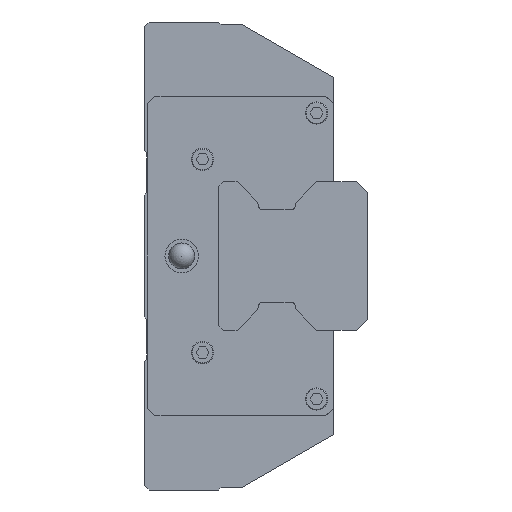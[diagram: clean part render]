
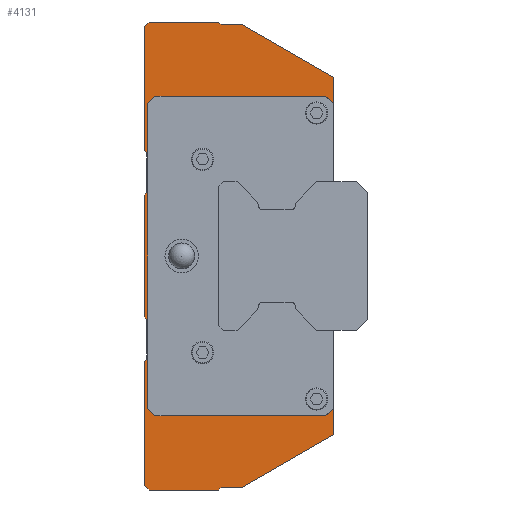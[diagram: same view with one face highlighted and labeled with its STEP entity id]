
A CAD part, left-side view. The second image highlights one B-rep face of the part: STEP entity #4131.
In plain terms, the highlighted planar face has unit normal (-1, 0, 0).
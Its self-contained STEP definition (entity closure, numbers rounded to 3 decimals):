
#726=ORIENTED_EDGE('',*,*,#1479,.T.);
#727=ORIENTED_EDGE('',*,*,#1487,.T.);
#728=ORIENTED_EDGE('',*,*,#1529,.F.);
#729=ORIENTED_EDGE('',*,*,#1652,.F.);
#730=ORIENTED_EDGE('',*,*,#1653,.F.);
#731=ORIENTED_EDGE('',*,*,#1654,.F.);
#732=ORIENTED_EDGE('',*,*,#1655,.F.);
#733=ORIENTED_EDGE('',*,*,#1656,.F.);
#734=ORIENTED_EDGE('',*,*,#1626,.F.);
#735=ORIENTED_EDGE('',*,*,#1619,.F.);
#736=ORIENTED_EDGE('',*,*,#1657,.F.);
#737=ORIENTED_EDGE('',*,*,#1658,.F.);
#738=ORIENTED_EDGE('',*,*,#1634,.F.);
#739=ORIENTED_EDGE('',*,*,#1659,.F.);
#740=ORIENTED_EDGE('',*,*,#1660,.F.);
#741=ORIENTED_EDGE('',*,*,#1617,.F.);
#742=ORIENTED_EDGE('',*,*,#1629,.F.);
#743=ORIENTED_EDGE('',*,*,#1661,.F.);
#744=ORIENTED_EDGE('',*,*,#1662,.F.);
#745=ORIENTED_EDGE('',*,*,#1663,.F.);
#746=ORIENTED_EDGE('',*,*,#1664,.F.);
#747=ORIENTED_EDGE('',*,*,#1665,.F.);
#748=ORIENTED_EDGE('',*,*,#1535,.F.);
#749=ORIENTED_EDGE('',*,*,#1491,.T.);
#750=ORIENTED_EDGE('',*,*,#1499,.T.);
#751=ORIENTED_EDGE('',*,*,#1464,.T.);
#752=ORIENTED_EDGE('',*,*,#1613,.T.);
#753=ORIENTED_EDGE('',*,*,#1468,.T.);
#1464=EDGE_CURVE('',#1978,#1977,#2366,.T.);
#1468=EDGE_CURVE('',#1982,#1981,#2370,.T.);
#1479=EDGE_CURVE('',#1981,#1990,#2380,.T.);
#1487=EDGE_CURVE('',#1990,#1995,#2388,.T.);
#1491=EDGE_CURVE('',#2000,#1999,#2392,.T.);
#1499=EDGE_CURVE('',#1999,#1978,#2399,.T.);
#1529=EDGE_CURVE('',#2028,#1995,#2427,.T.);
#1535=EDGE_CURVE('',#2000,#2032,#2433,.T.);
#1613=EDGE_CURVE('',#1977,#1982,#2501,.T.);
#1617=EDGE_CURVE('',#2083,#2081,#2505,.T.);
#1619=EDGE_CURVE('',#2084,#2086,#2507,.T.);
#1626=EDGE_CURVE('',#2086,#2091,#2512,.T.);
#1629=EDGE_CURVE('',#2094,#2083,#2513,.T.);
#1634=EDGE_CURVE('',#2098,#2099,#2516,.T.);
#1652=EDGE_CURVE('',#2112,#2028,#2534,.T.);
#1653=EDGE_CURVE('',#2113,#2112,#2535,.T.);
#1654=EDGE_CURVE('',#2114,#2113,#2536,.T.);
#1655=EDGE_CURVE('',#2115,#2114,#2537,.T.);
#1656=EDGE_CURVE('',#2091,#2115,#2538,.T.);
#1657=EDGE_CURVE('',#2116,#2084,#2539,.T.);
#1658=EDGE_CURVE('',#2099,#2116,#2540,.T.);
#1659=EDGE_CURVE('',#2117,#2098,#2541,.T.);
#1660=EDGE_CURVE('',#2081,#2117,#2542,.T.);
#1661=EDGE_CURVE('',#2118,#2094,#2543,.T.);
#1662=EDGE_CURVE('',#2119,#2118,#2544,.T.);
#1663=EDGE_CURVE('',#2120,#2119,#2545,.T.);
#1664=EDGE_CURVE('',#2121,#2120,#2546,.T.);
#1665=EDGE_CURVE('',#2032,#2121,#2547,.T.);
#1977=VERTEX_POINT('',#6176);
#1978=VERTEX_POINT('',#6178);
#1981=VERTEX_POINT('',#6185);
#1982=VERTEX_POINT('',#6187);
#1990=VERTEX_POINT('',#6207);
#1995=VERTEX_POINT('',#6222);
#1999=VERTEX_POINT('',#6231);
#2000=VERTEX_POINT('',#6233);
#2028=VERTEX_POINT('',#6307);
#2032=VERTEX_POINT('',#6319);
#2081=VERTEX_POINT('',#6472);
#2083=VERTEX_POINT('',#6476);
#2084=VERTEX_POINT('',#6480);
#2086=VERTEX_POINT('',#6483);
#2091=VERTEX_POINT('',#6494);
#2094=VERTEX_POINT('',#6503);
#2098=VERTEX_POINT('',#6513);
#2099=VERTEX_POINT('',#6514);
#2112=VERTEX_POINT('',#6547);
#2113=VERTEX_POINT('',#6549);
#2114=VERTEX_POINT('',#6551);
#2115=VERTEX_POINT('',#6553);
#2116=VERTEX_POINT('',#6556);
#2117=VERTEX_POINT('',#6559);
#2118=VERTEX_POINT('',#6562);
#2119=VERTEX_POINT('',#6564);
#2120=VERTEX_POINT('',#6566);
#2121=VERTEX_POINT('',#6568);
#2366=LINE('',#6177,#2812);
#2370=LINE('',#6186,#2816);
#2380=LINE('',#6208,#2826);
#2388=LINE('',#6223,#2834);
#2392=LINE('',#6232,#2838);
#2399=LINE('',#6246,#2845);
#2427=LINE('',#6308,#2873);
#2433=LINE('',#6318,#2879);
#2501=LINE('',#6468,#2947);
#2505=LINE('',#6477,#2951);
#2507=LINE('',#6482,#2953);
#2512=LINE('',#6496,#2958);
#2513=LINE('',#6502,#2959);
#2516=LINE('',#6512,#2962);
#2534=LINE('',#6546,#2980);
#2535=LINE('',#6548,#2981);
#2536=LINE('',#6550,#2982);
#2537=LINE('',#6552,#2983);
#2538=LINE('',#6554,#2984);
#2539=LINE('',#6555,#2985);
#2540=LINE('',#6557,#2986);
#2541=LINE('',#6558,#2987);
#2542=LINE('',#6560,#2988);
#2543=LINE('',#6561,#2989);
#2544=LINE('',#6563,#2990);
#2545=LINE('',#6565,#2991);
#2546=LINE('',#6567,#2992);
#2547=LINE('',#6569,#2993);
#2812=VECTOR('',#4994,1000.);
#2816=VECTOR('',#5000,1000.);
#2826=VECTOR('',#5016,1000.);
#2834=VECTOR('',#5028,1000.);
#2838=VECTOR('',#5034,1000.);
#2845=VECTOR('',#5047,1000.);
#2873=VECTOR('',#5093,1000.);
#2879=VECTOR('',#5101,1000.);
#2947=VECTOR('',#5237,1000.);
#2951=VECTOR('',#5243,1000.);
#2953=VECTOR('',#5247,1000.);
#2958=VECTOR('',#5258,1000.);
#2959=VECTOR('',#5265,1000.);
#2962=VECTOR('',#5274,1000.);
#2980=VECTOR('',#5296,1000.);
#2981=VECTOR('',#5297,1000.);
#2982=VECTOR('',#5298,1000.);
#2983=VECTOR('',#5299,1000.);
#2984=VECTOR('',#5300,1000.);
#2985=VECTOR('',#5301,1000.);
#2986=VECTOR('',#5302,1000.);
#2987=VECTOR('',#5303,1000.);
#2988=VECTOR('',#5304,1000.);
#2989=VECTOR('',#5305,1000.);
#2990=VECTOR('',#5306,1000.);
#2991=VECTOR('',#5307,1000.);
#2992=VECTOR('',#5308,1000.);
#2993=VECTOR('',#5309,1000.);
#3290=EDGE_LOOP('',(#726,#727,#728,#729,#730,#731,#732,#733,#734,#735,#736,
#737,#738,#739,#740,#741,#742,#743,#744,#745,#746,#747,#748,#749,#750,#751,
#752,#753));
#3640=FACE_BOUND('',#3290,.T.);
#3921=PLANE('',#4477);
#4131=ADVANCED_FACE('',(#3640),#3921,.F.);
#4477=AXIS2_PLACEMENT_3D('',#6545,#5294,#5295);
#4994=DIRECTION('',(0.,0.707,0.707));
#5000=DIRECTION('',(0.,-0.707,0.707));
#5016=DIRECTION('',(0.,-1.,0.));
#5028=DIRECTION('',(0.,-0.707,-0.707));
#5034=DIRECTION('',(0.,0.707,-0.707));
#5047=DIRECTION('',(0.,1.,0.));
#5093=DIRECTION('',(0.,0.,-1.));
#5101=DIRECTION('',(0.,0.,-1.));
#5237=DIRECTION('',(0.,0.,1.));
#5243=DIRECTION('',(0.,-0.707,0.707));
#5247=DIRECTION('',(0.,0.707,0.707));
#5258=DIRECTION('',(0.,0.,1.));
#5265=DIRECTION('',(0.,0.,1.));
#5274=DIRECTION('',(0.,0.,1.));
#5294=DIRECTION('',(1.,0.,0.));
#5295=DIRECTION('',(0.,0.,-1.));
#5296=DIRECTION('',(0.,-0.866,-0.5));
#5297=DIRECTION('',(0.,-1.,0.));
#5298=DIRECTION('',(0.,-0.707,-0.707));
#5299=DIRECTION('',(0.,-1.,0.));
#5300=DIRECTION('',(0.,-0.707,0.707));
#5301=DIRECTION('',(0.,0.,1.));
#5302=DIRECTION('',(0.,-0.707,0.707));
#5303=DIRECTION('',(0.,0.707,0.707));
#5304=DIRECTION('',(0.,0.,1.));
#5305=DIRECTION('',(0.,0.707,0.707));
#5306=DIRECTION('',(0.,1.,0.));
#5307=DIRECTION('',(0.,0.707,-0.707));
#5308=DIRECTION('',(0.,1.,0.));
#5309=DIRECTION('',(0.,0.866,-0.5));
#6176=CARTESIAN_POINT('',(-39.,25.,-20.5));
#6177=CARTESIAN_POINT('',(-39.,24.,-21.5));
#6178=CARTESIAN_POINT('',(-39.,24.,-21.5));
#6185=CARTESIAN_POINT('',(-39.,24.,21.5));
#6186=CARTESIAN_POINT('',(-39.,25.,20.5));
#6187=CARTESIAN_POINT('',(-39.,25.,20.5));
#6207=CARTESIAN_POINT('',(-39.,1.,21.5));
#6208=CARTESIAN_POINT('',(-39.,24.,21.5));
#6222=CARTESIAN_POINT('',(-39.,0.,20.5));
#6223=CARTESIAN_POINT('',(-39.,1.,21.5));
#6231=CARTESIAN_POINT('',(-39.,1.,-21.5));
#6232=CARTESIAN_POINT('',(-39.,0.,-20.5));
#6233=CARTESIAN_POINT('',(-39.,0.,-20.5));
#6246=CARTESIAN_POINT('',(-39.,1.,-21.5));
#6307=CARTESIAN_POINT('',(-39.,0.,24.041));
#6308=CARTESIAN_POINT('',(-39.,0.,20.425));
#6318=CARTESIAN_POINT('',(-39.,0.,20.425));
#6319=CARTESIAN_POINT('',(-39.,0.,-24.041));
#6468=CARTESIAN_POINT('',(-39.,25.,-20.5));
#6472=CARTESIAN_POINT('',(-39.,25.1,-13.88));
#6476=CARTESIAN_POINT('',(-39.,25.4,-14.18));
#6477=CARTESIAN_POINT('',(-39.,25.4,-14.18));
#6480=CARTESIAN_POINT('',(-39.,25.1,13.88));
#6482=CARTESIAN_POINT('',(-39.,24.76,13.54));
#6483=CARTESIAN_POINT('',(-39.,25.4,14.18));
#6494=CARTESIAN_POINT('',(-39.,25.4,30.9));
#6496=CARTESIAN_POINT('',(-39.,25.4,14.18));
#6502=CARTESIAN_POINT('',(-39.,25.4,-20.425));
#6503=CARTESIAN_POINT('',(-39.,25.4,-30.9));
#6512=CARTESIAN_POINT('',(-39.,25.4,-6.3));
#6513=CARTESIAN_POINT('',(-39.,25.4,-8.2));
#6514=CARTESIAN_POINT('',(-39.,25.4,8.2));
#6545=CARTESIAN_POINT('',(-39.,0.,0.));
#6546=CARTESIAN_POINT('',(-39.,12.4,31.2));
#6547=CARTESIAN_POINT('',(-39.,12.4,31.2));
#6548=CARTESIAN_POINT('',(-39.,15.1,31.2));
#6549=CARTESIAN_POINT('',(-39.,15.1,31.2));
#6550=CARTESIAN_POINT('',(-39.,15.4,31.5));
#6551=CARTESIAN_POINT('',(-39.,15.4,31.5));
#6552=CARTESIAN_POINT('',(-39.,24.8,31.5));
#6553=CARTESIAN_POINT('',(-39.,24.8,31.5));
#6554=CARTESIAN_POINT('',(-39.,25.4,30.9));
#6555=CARTESIAN_POINT('',(-39.,25.1,8.5));
#6556=CARTESIAN_POINT('',(-39.,25.1,8.5));
#6557=CARTESIAN_POINT('',(-39.,25.4,8.2));
#6558=CARTESIAN_POINT('',(-39.,25.1,-8.5));
#6559=CARTESIAN_POINT('',(-39.,25.1,-8.5));
#6560=CARTESIAN_POINT('',(-39.,25.1,-18.5));
#6561=CARTESIAN_POINT('',(-39.,24.8,-31.5));
#6562=CARTESIAN_POINT('',(-39.,24.8,-31.5));
#6563=CARTESIAN_POINT('',(-39.,15.4,-31.5));
#6564=CARTESIAN_POINT('',(-39.,15.4,-31.5));
#6565=CARTESIAN_POINT('',(-39.,15.1,-31.2));
#6566=CARTESIAN_POINT('',(-39.,15.1,-31.2));
#6567=CARTESIAN_POINT('',(-39.,12.4,-31.2));
#6568=CARTESIAN_POINT('',(-39.,12.4,-31.2));
#6569=CARTESIAN_POINT('',(-39.,0.,-24.041));
